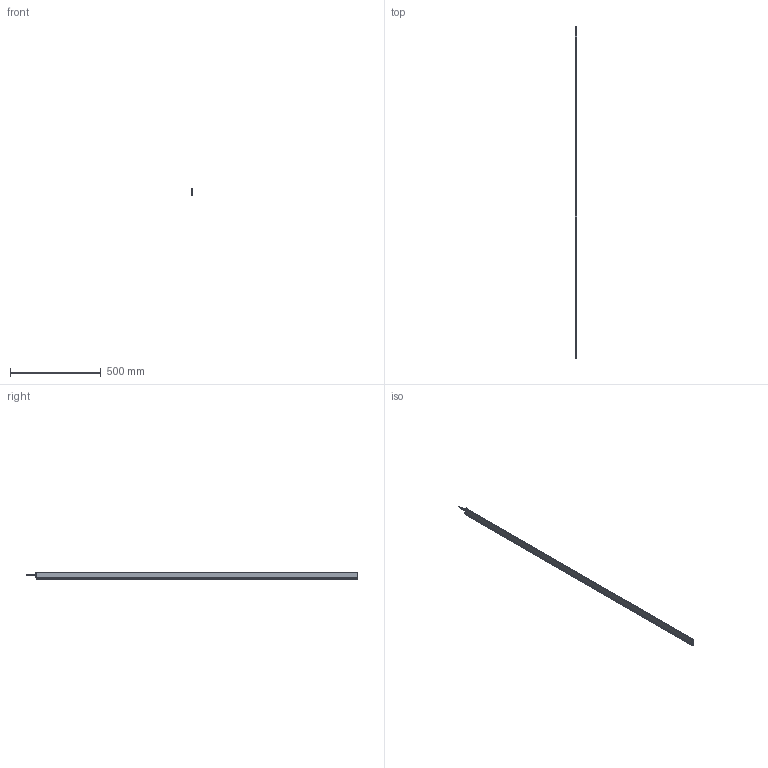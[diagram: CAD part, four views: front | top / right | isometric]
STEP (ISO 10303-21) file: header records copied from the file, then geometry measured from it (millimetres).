
FILE_DESCRIPTION (( 'STEP AP214' ), '1' );
FILE_NAME ('ILG-L-K2-1770mm.STEP', '2017-07-11T08:25:24', ( '' ), ( '' ), 'SwSTEP 2.0', 'SolidWorks 2016', '' );
FILE_SCHEMA (( 'AUTOMOTIVE_DESIGN' ));
Length unit declared in the file: millimetre
Products named in the file (1): ILG-L-K2-1770mm
Bounding box: 9 x 1824.5 x 40.71 mm (x, y, z)
Surface area: 350239.2 mm2 (no closed solid volume)
Topology: 0 solids, 13 shells, 679 faces, 1780 edges, 1131 vertices
Faces by surface type: cylinder 286, plane 255, cone 90, bspline 32, torus 16
Entity records: 30532 total; most frequent: CARTESIAN_POINT 6477, ORIENTED_EDGE 3513, DIRECTION 3392, EDGE_CURVE 1764, AXIS2_PLACEMENT_3D 1295, VERTEX_POINT 1131, VECTOR 802, LINE 802
